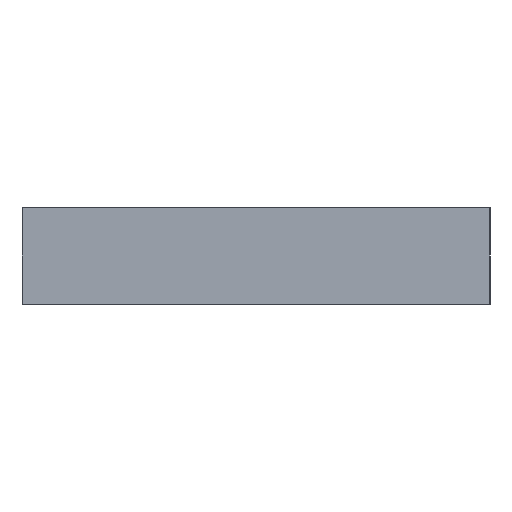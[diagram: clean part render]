
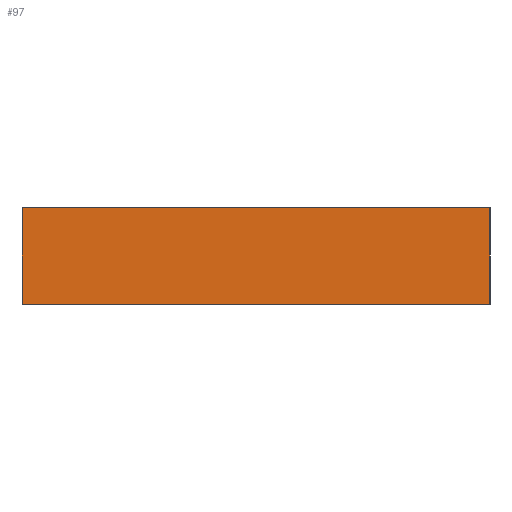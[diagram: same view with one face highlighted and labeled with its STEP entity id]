
A CAD part, left-side view. The second image highlights one B-rep face of the part: STEP entity #97.
In plain terms, the highlighted planar face has unit normal (-1, 0, 0).
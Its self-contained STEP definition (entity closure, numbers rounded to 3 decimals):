
#97 = ADVANCED_FACE( '', ( #190 ), #191, .F. );
#190 = FACE_OUTER_BOUND( '', #268, .T. );
#191 = PLANE( '', #269 );
#268 = EDGE_LOOP( '', ( #399, #400, #401, #402 ) );
#269 = AXIS2_PLACEMENT_3D( '', #403, #404, #405 );
#399 = ORIENTED_EDGE( '', *, *, #451, .T. );
#400 = ORIENTED_EDGE( '', *, *, #457, .F. );
#401 = ORIENTED_EDGE( '', *, *, #429, .F. );
#402 = ORIENTED_EDGE( '', *, *, #439, .T. );
#403 = CARTESIAN_POINT( '', ( -6., 0., 3.5 ) );
#404 = DIRECTION( '', ( 1., 0., 0. ) );
#405 = DIRECTION( '', ( 0., 0., -1. ) );
#429 = EDGE_CURVE( '', #488, #490, #491, .T. );
#439 = EDGE_CURVE( '', #488, #506, #508, .T. );
#451 = EDGE_CURVE( '', #506, #522, #524, .T. );
#457 = EDGE_CURVE( '', #490, #522, #530, .T. );
#488 = VERTEX_POINT( '', #564 );
#490 = VERTEX_POINT( '', #567 );
#491 = LINE( '', #568, #569 );
#506 = VERTEX_POINT( '', #588 );
#508 = LINE( '', #591, #592 );
#522 = VERTEX_POINT( '', #611 );
#524 = LINE( '', #614, #615 );
#530 = LINE( '', #623, #624 );
#564 = CARTESIAN_POINT( '', ( -6., 0., 3.5 ) );
#567 = CARTESIAN_POINT( '', ( -6., -34., 3.5 ) );
#568 = CARTESIAN_POINT( '', ( -6., 0., 3.5 ) );
#569 = VECTOR( '', #654, 1000. );
#588 = CARTESIAN_POINT( '', ( -6., 0., -3.5 ) );
#591 = CARTESIAN_POINT( '', ( -6., 0., 3.5 ) );
#592 = VECTOR( '', #669, 1000. );
#611 = CARTESIAN_POINT( '', ( -6., -34., -3.5 ) );
#614 = CARTESIAN_POINT( '', ( -6., 0., -3.5 ) );
#615 = VECTOR( '', #679, 1000. );
#623 = CARTESIAN_POINT( '', ( -6., -34., 3.5 ) );
#624 = VECTOR( '', #682, 1000. );
#654 = DIRECTION( '', ( 0., -1., 0. ) );
#669 = DIRECTION( '', ( 0., 0., -1. ) );
#679 = DIRECTION( '', ( 0., -1., 0. ) );
#682 = DIRECTION( '', ( 0., 0., -1. ) );
